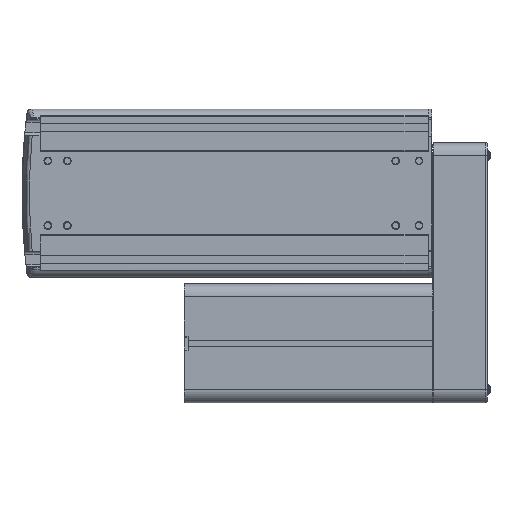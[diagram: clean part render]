
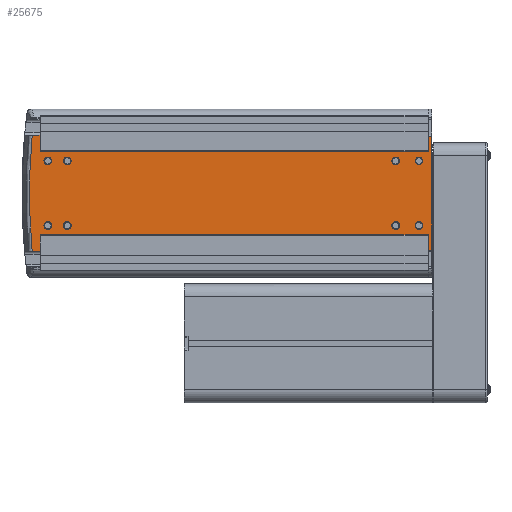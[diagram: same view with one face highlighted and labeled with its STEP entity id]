
A CAD part, front view. The second image highlights one B-rep face of the part: STEP entity #25675.
In plain terms, the highlighted planar face has unit normal (0, -1, 0).
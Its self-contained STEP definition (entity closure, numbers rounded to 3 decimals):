
#3406=CARTESIAN_POINT('',(-294.,1.5,-25.));
#3407=DIRECTION('',(0.,1.,0.));
#3408=DIRECTION('',(1.,0.,0.));
#3409=AXIS2_PLACEMENT_3D('',#3406,#3407,#3408);
#3411=CARTESIAN_POINT('',(-294.,1.5,-25.));
#3412=DIRECTION('',(0.,1.,0.));
#3413=DIRECTION('',(-1.,0.,0.));
#3414=AXIS2_PLACEMENT_3D('',#3411,#3412,#3413);
#3416=CARTESIAN_POINT('',(-294.,1.5,25.));
#3417=DIRECTION('',(0.,1.,0.));
#3418=DIRECTION('',(1.,0.,0.));
#3419=AXIS2_PLACEMENT_3D('',#3416,#3417,#3418);
#3421=CARTESIAN_POINT('',(-294.,1.5,25.));
#3422=DIRECTION('',(0.,1.,0.));
#3423=DIRECTION('',(-1.,0.,0.));
#3424=AXIS2_PLACEMENT_3D('',#3421,#3422,#3423);
#3426=CARTESIAN_POINT('',(-279.,1.5,-25.));
#3427=DIRECTION('',(0.,1.,0.));
#3428=DIRECTION('',(1.,0.,0.));
#3429=AXIS2_PLACEMENT_3D('',#3426,#3427,#3428);
#3431=CARTESIAN_POINT('',(-279.,1.5,-25.));
#3432=DIRECTION('',(0.,1.,0.));
#3433=DIRECTION('',(-1.,0.,0.));
#3434=AXIS2_PLACEMENT_3D('',#3431,#3432,#3433);
#3436=CARTESIAN_POINT('',(-279.,1.5,25.));
#3437=DIRECTION('',(0.,1.,0.));
#3438=DIRECTION('',(1.,0.,0.));
#3439=AXIS2_PLACEMENT_3D('',#3436,#3437,#3438);
#3441=CARTESIAN_POINT('',(-279.,1.5,25.));
#3442=DIRECTION('',(0.,1.,0.));
#3443=DIRECTION('',(-1.,0.,0.));
#3444=AXIS2_PLACEMENT_3D('',#3441,#3442,#3443);
#3446=CARTESIAN_POINT('',(-7.,1.5,-25.));
#3447=DIRECTION('',(0.,1.,0.));
#3448=DIRECTION('',(1.,0.,0.));
#3449=AXIS2_PLACEMENT_3D('',#3446,#3447,#3448);
#3451=CARTESIAN_POINT('',(-7.,1.5,-25.));
#3452=DIRECTION('',(0.,1.,0.));
#3453=DIRECTION('',(-1.,0.,0.));
#3454=AXIS2_PLACEMENT_3D('',#3451,#3452,#3453);
#3456=CARTESIAN_POINT('',(-7.,1.5,25.));
#3457=DIRECTION('',(0.,1.,0.));
#3458=DIRECTION('',(1.,0.,0.));
#3459=AXIS2_PLACEMENT_3D('',#3456,#3457,#3458);
#3461=CARTESIAN_POINT('',(-7.,1.5,25.));
#3462=DIRECTION('',(0.,1.,0.));
#3463=DIRECTION('',(-1.,0.,0.));
#3464=AXIS2_PLACEMENT_3D('',#3461,#3462,#3463);
#3466=CARTESIAN_POINT('',(-25.,1.5,-25.));
#3467=DIRECTION('',(0.,1.,0.));
#3468=DIRECTION('',(1.,0.,0.));
#3469=AXIS2_PLACEMENT_3D('',#3466,#3467,#3468);
#3471=CARTESIAN_POINT('',(-25.,1.5,-25.));
#3472=DIRECTION('',(0.,1.,0.));
#3473=DIRECTION('',(-1.,0.,0.));
#3474=AXIS2_PLACEMENT_3D('',#3471,#3472,#3473);
#3476=CARTESIAN_POINT('',(-25.,1.5,25.));
#3477=DIRECTION('',(0.,1.,0.));
#3478=DIRECTION('',(1.,0.,0.));
#3479=AXIS2_PLACEMENT_3D('',#3476,#3477,#3478);
#3481=CARTESIAN_POINT('',(-25.,1.5,25.));
#3482=DIRECTION('',(0.,1.,0.));
#3483=DIRECTION('',(-1.,0.,0.));
#3484=AXIS2_PLACEMENT_3D('',#3481,#3482,#3483);
#3486=CARTESIAN_POINT('',(186.,1.5,0.));
#3487=DIRECTION('',(0.,-1.,0.));
#3488=DIRECTION('',(-0.996,0.,0.091));
#3489=AXIS2_PLACEMENT_3D('',#3486,#3487,#3488);
#3491=DIRECTION('',(-1.,0.,0.));
#3492=VECTOR('',#3491,300.);
#3493=CARTESIAN_POINT('',(0.,1.5,32.));
#3494=LINE('',#3493,#3492);
#3495=DIRECTION('',(0.,0.,1.));
#3496=VECTOR('',#3495,88.);
#3497=CARTESIAN_POINT('',(3.,1.5,-44.));
#3498=LINE('',#3497,#3496);
#4013=DIRECTION('',(0.,0.,-1.));
#4014=VECTOR('',#4013,13.);
#4015=CARTESIAN_POINT('',(-300.,1.5,45.));
#4016=LINE('',#4015,#4014);
#4074=DIRECTION('',(0.,0.,-1.));
#4075=VECTOR('',#4074,13.);
#4076=CARTESIAN_POINT('',(-300.,1.5,-32.));
#4077=LINE('',#4076,#4075);
#6257=DIRECTION('',(0.,0.,1.));
#6258=VECTOR('',#6257,12.);
#6259=CARTESIAN_POINT('',(0.,1.5,32.));
#6260=LINE('',#6259,#6258);
#6309=DIRECTION('',(0.,0.,1.));
#6310=VECTOR('',#6309,12.);
#6311=CARTESIAN_POINT('',(0.,1.5,-44.));
#6312=LINE('',#6311,#6310);
#6800=DIRECTION('',(-1.,0.,0.));
#6801=VECTOR('',#6800,6.147);
#6802=CARTESIAN_POINT('',(-300.,1.5,45.));
#6803=LINE('',#6802,#6801);
#6830=DIRECTION('',(1.,0.,0.));
#6831=VECTOR('',#6830,6.147);
#6832=CARTESIAN_POINT('',(-306.147,1.5,-45.));
#6833=LINE('',#6832,#6831);
#10511=DIRECTION('',(1.,0.,0.));
#10512=VECTOR('',#10511,3.);
#10513=CARTESIAN_POINT('',(0.,1.5,-44.));
#10514=LINE('',#10513,#10512);
#10851=DIRECTION('',(-1.,0.,0.));
#10852=VECTOR('',#10851,300.);
#10853=CARTESIAN_POINT('',(0.,1.5,-32.));
#10854=LINE('',#10853,#10852);
#10883=DIRECTION('',(-1.,0.,0.));
#10884=VECTOR('',#10883,3.);
#10885=CARTESIAN_POINT('',(3.,1.5,44.));
#10886=LINE('',#10885,#10884);
#16773=CARTESIAN_POINT('',(3.,1.5,44.));
#16774=VERTEX_POINT('',#16773);
#16775=CARTESIAN_POINT('',(3.,1.5,-44.));
#16776=VERTEX_POINT('',#16775);
#17541=CARTESIAN_POINT('',(-306.147,1.5,45.));
#17542=CARTESIAN_POINT('',(-306.147,1.5,-45.));
#17543=VERTEX_POINT('',#17541);
#17544=VERTEX_POINT('',#17542);
#18357=CARTESIAN_POINT('',(-291.5,1.5,-25.));
#18358=CARTESIAN_POINT('',(-296.5,1.5,-25.));
#18359=VERTEX_POINT('',#18357);
#18360=VERTEX_POINT('',#18358);
#18361=CARTESIAN_POINT('',(-291.5,1.5,25.));
#18362=CARTESIAN_POINT('',(-296.5,1.5,25.));
#18363=VERTEX_POINT('',#18361);
#18364=VERTEX_POINT('',#18362);
#18365=CARTESIAN_POINT('',(-276.5,1.5,-25.));
#18366=CARTESIAN_POINT('',(-281.5,1.5,-25.));
#18367=VERTEX_POINT('',#18365);
#18368=VERTEX_POINT('',#18366);
#18369=CARTESIAN_POINT('',(-276.5,1.5,25.));
#18370=CARTESIAN_POINT('',(-281.5,1.5,25.));
#18371=VERTEX_POINT('',#18369);
#18372=VERTEX_POINT('',#18370);
#18373=CARTESIAN_POINT('',(-4.5,1.5,-25.));
#18374=CARTESIAN_POINT('',(-9.5,1.5,-25.));
#18375=VERTEX_POINT('',#18373);
#18376=VERTEX_POINT('',#18374);
#18377=CARTESIAN_POINT('',(-4.5,1.5,25.));
#18378=CARTESIAN_POINT('',(-9.5,1.5,25.));
#18379=VERTEX_POINT('',#18377);
#18380=VERTEX_POINT('',#18378);
#18381=CARTESIAN_POINT('',(-22.5,1.5,-25.));
#18382=CARTESIAN_POINT('',(-27.5,1.5,-25.));
#18383=VERTEX_POINT('',#18381);
#18384=VERTEX_POINT('',#18382);
#18385=CARTESIAN_POINT('',(-22.5,1.5,25.));
#18386=CARTESIAN_POINT('',(-27.5,1.5,25.));
#18387=VERTEX_POINT('',#18385);
#18388=VERTEX_POINT('',#18386);
#19314=CARTESIAN_POINT('',(0.,1.5,-44.));
#19315=VERTEX_POINT('',#19314);
#19316=CARTESIAN_POINT('',(0.,1.5,-32.));
#19317=VERTEX_POINT('',#19316);
#19318=CARTESIAN_POINT('',(0.,1.5,32.));
#19319=CARTESIAN_POINT('',(0.,1.5,44.));
#19320=VERTEX_POINT('',#19318);
#19321=VERTEX_POINT('',#19319);
#19770=CARTESIAN_POINT('',(-300.,1.5,45.));
#19771=CARTESIAN_POINT('',(-300.,1.5,32.));
#19772=VERTEX_POINT('',#19770);
#19773=VERTEX_POINT('',#19771);
#19774=CARTESIAN_POINT('',(-300.,1.5,-32.));
#19775=CARTESIAN_POINT('',(-300.,1.5,-45.));
#19776=VERTEX_POINT('',#19774);
#19777=VERTEX_POINT('',#19775);
#25597=CARTESIAN_POINT('',(-150.,1.5,0.));
#25598=DIRECTION('',(0.,1.,0.));
#25599=DIRECTION('',(0.,0.,-1.));
#25600=AXIS2_PLACEMENT_3D('',#25597,#25598,#25599);
#25601=PLANE('',#25600);
#25603=ORIENTED_EDGE('',*,*,#25602,.T.);
#25605=ORIENTED_EDGE('',*,*,#25604,.T.);
#25607=ORIENTED_EDGE('',*,*,#25606,.F.);
#25609=ORIENTED_EDGE('',*,*,#25608,.F.);
#25611=ORIENTED_EDGE('',*,*,#25610,.F.);
#25613=ORIENTED_EDGE('',*,*,#25612,.T.);
#25615=ORIENTED_EDGE('',*,*,#25614,.F.);
#25617=ORIENTED_EDGE('',*,*,#25616,.T.);
#25619=ORIENTED_EDGE('',*,*,#25618,.F.);
#25621=ORIENTED_EDGE('',*,*,#25620,.F.);
#25623=ORIENTED_EDGE('',*,*,#25622,.F.);
#25625=ORIENTED_EDGE('',*,*,#25624,.T.);
#25626=EDGE_LOOP('',(#25603,#25605,#25607,#25609,#25611,#25613,#25615,#25617,
#25619,#25621,#25623,#25625));
#25627=FACE_OUTER_BOUND('',#25626,.F.);
#25628=ORIENTED_EDGE('',*,*,#25587,.F.);
#25630=ORIENTED_EDGE('',*,*,#25629,.F.);
#25631=EDGE_LOOP('',(#25628,#25630));
#25632=FACE_BOUND('',#25631,.F.);
#25634=ORIENTED_EDGE('',*,*,#25633,.F.);
#25636=ORIENTED_EDGE('',*,*,#25635,.F.);
#25637=EDGE_LOOP('',(#25634,#25636));
#25638=FACE_BOUND('',#25637,.F.);
#25640=ORIENTED_EDGE('',*,*,#25639,.F.);
#25642=ORIENTED_EDGE('',*,*,#25641,.F.);
#25643=EDGE_LOOP('',(#25640,#25642));
#25644=FACE_BOUND('',#25643,.F.);
#25646=ORIENTED_EDGE('',*,*,#25645,.F.);
#25648=ORIENTED_EDGE('',*,*,#25647,.F.);
#25649=EDGE_LOOP('',(#25646,#25648));
#25650=FACE_BOUND('',#25649,.F.);
#25652=ORIENTED_EDGE('',*,*,#25651,.F.);
#25654=ORIENTED_EDGE('',*,*,#25653,.F.);
#25655=EDGE_LOOP('',(#25652,#25654));
#25656=FACE_BOUND('',#25655,.F.);
#25658=ORIENTED_EDGE('',*,*,#25657,.F.);
#25660=ORIENTED_EDGE('',*,*,#25659,.F.);
#25661=EDGE_LOOP('',(#25658,#25660));
#25662=FACE_BOUND('',#25661,.F.);
#25664=ORIENTED_EDGE('',*,*,#25663,.F.);
#25666=ORIENTED_EDGE('',*,*,#25665,.F.);
#25667=EDGE_LOOP('',(#25664,#25666));
#25668=FACE_BOUND('',#25667,.F.);
#25670=ORIENTED_EDGE('',*,*,#25669,.F.);
#25672=ORIENTED_EDGE('',*,*,#25671,.F.);
#25673=EDGE_LOOP('',(#25670,#25672));
#25674=FACE_BOUND('',#25673,.F.);
#25675=ADVANCED_FACE('',(#25627,#25632,#25638,#25644,#25650,#25656,#25662,
#25668,#25674),#25601,.F.);
#3410=CIRCLE('',#3409,2.5);
#3415=CIRCLE('',#3414,2.5);
#3420=CIRCLE('',#3419,2.5);
#3425=CIRCLE('',#3424,2.5);
#3430=CIRCLE('',#3429,2.5);
#3435=CIRCLE('',#3434,2.5);
#3440=CIRCLE('',#3439,2.5);
#3445=CIRCLE('',#3444,2.5);
#3450=CIRCLE('',#3449,2.5);
#3455=CIRCLE('',#3454,2.5);
#3460=CIRCLE('',#3459,2.5);
#3465=CIRCLE('',#3464,2.5);
#3470=CIRCLE('',#3469,2.5);
#3475=CIRCLE('',#3474,2.5);
#3480=CIRCLE('',#3479,2.5);
#3485=CIRCLE('',#3484,2.5);
#3490=CIRCLE('',#3489,494.2);
#25587=EDGE_CURVE('',#18363,#18364,#3420,.T.);
#25602=EDGE_CURVE('',#19317,#19776,#10854,.T.);
#25604=EDGE_CURVE('',#19776,#19777,#4077,.T.);
#25606=EDGE_CURVE('',#17544,#19777,#6833,.T.);
#25608=EDGE_CURVE('',#17543,#17544,#3490,.T.);
#25610=EDGE_CURVE('',#19772,#17543,#6803,.T.);
#25612=EDGE_CURVE('',#19772,#19773,#4016,.T.);
#25614=EDGE_CURVE('',#19320,#19773,#3494,.T.);
#25616=EDGE_CURVE('',#19320,#19321,#6260,.T.);
#25618=EDGE_CURVE('',#16774,#19321,#10886,.T.);
#25620=EDGE_CURVE('',#16776,#16774,#3498,.T.);
#25622=EDGE_CURVE('',#19315,#16776,#10514,.T.);
#25624=EDGE_CURVE('',#19315,#19317,#6312,.T.);
#25629=EDGE_CURVE('',#18364,#18363,#3425,.T.);
#25633=EDGE_CURVE('',#18367,#18368,#3430,.T.);
#25635=EDGE_CURVE('',#18368,#18367,#3435,.T.);
#25639=EDGE_CURVE('',#18371,#18372,#3440,.T.);
#25641=EDGE_CURVE('',#18372,#18371,#3445,.T.);
#25645=EDGE_CURVE('',#18375,#18376,#3450,.T.);
#25647=EDGE_CURVE('',#18376,#18375,#3455,.T.);
#25651=EDGE_CURVE('',#18379,#18380,#3460,.T.);
#25653=EDGE_CURVE('',#18380,#18379,#3465,.T.);
#25657=EDGE_CURVE('',#18383,#18384,#3470,.T.);
#25659=EDGE_CURVE('',#18384,#18383,#3475,.T.);
#25663=EDGE_CURVE('',#18387,#18388,#3480,.T.);
#25665=EDGE_CURVE('',#18388,#18387,#3485,.T.);
#25669=EDGE_CURVE('',#18359,#18360,#3410,.T.);
#25671=EDGE_CURVE('',#18360,#18359,#3415,.T.);
